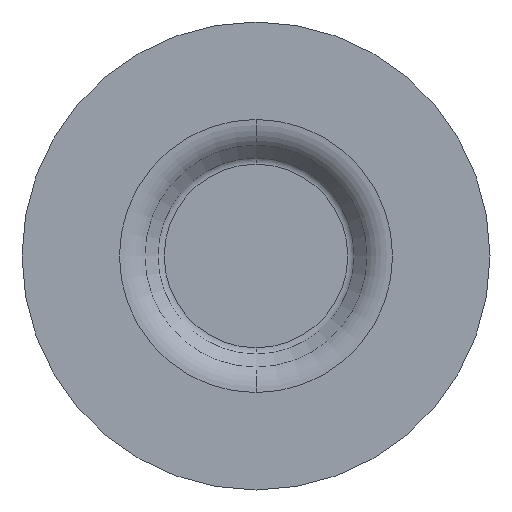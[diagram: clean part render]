
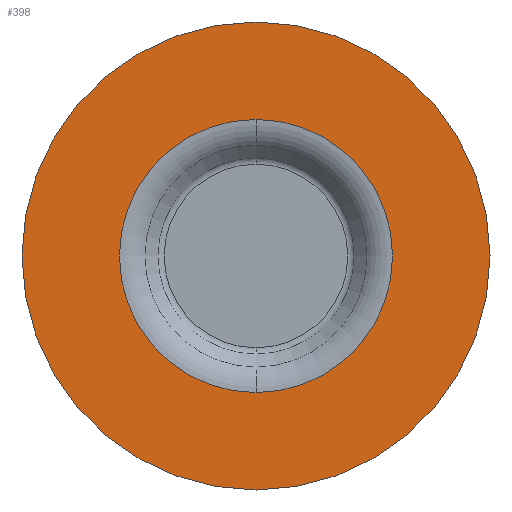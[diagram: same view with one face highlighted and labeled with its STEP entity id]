
A CAD part, front view. The second image highlights one B-rep face of the part: STEP entity #398.
In plain terms, the highlighted planar face has unit normal (0, -1, 0).
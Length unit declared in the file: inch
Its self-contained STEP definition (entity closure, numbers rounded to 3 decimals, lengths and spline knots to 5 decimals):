
#11 = CARTESIAN_POINT ( 'NONE',  ( 0.36485, -0.106, 0. ) ) ;
#19 = CARTESIAN_POINT ( 'NONE',  ( 0., -0.106, -0.36485 ) ) ;
#44 = FACE_BOUND ( 'NONE', #387, .T. ) ;
#47 = EDGE_CURVE ( 'NONE', #349, #391, #128, .T. ) ;
#53 = AXIS2_PLACEMENT_3D ( 'NONE', #87, #395, #474 ) ;
#54 = CARTESIAN_POINT ( 'NONE',  ( 0., -0.106, 0.36485 ) ) ;
#79 = ORIENTED_EDGE ( 'NONE', *, *, #386, .F. ) ;
#87 = CARTESIAN_POINT ( 'NONE',  ( 0., -0.106, 0. ) ) ;
#93 = DIRECTION ( 'NONE',  ( 0., 0., 1. ) ) ;
#97 = ORIENTED_EDGE ( 'NONE', *, *, #47, .T. ) ;
#114 = CIRCLE ( 'NONE', #201, 0.36485 ) ;
#120 = CARTESIAN_POINT ( 'NONE',  ( 0., -0.106, 0. ) ) ;
#128 = CIRCLE ( 'NONE', #175, 0.36485 ) ;
#175 = AXIS2_PLACEMENT_3D ( 'NONE', #328, #254, #408 ) ;
#195 = DIRECTION ( 'NONE',  ( 0., 1., 0. ) ) ;
#200 = VERTEX_POINT ( 'NONE', #415 ) ;
#201 = AXIS2_PLACEMENT_3D ( 'NONE', #375, #438, #379 ) ;
#231 = FACE_OUTER_BOUND ( 'NONE', #248, .T. ) ;
#248 = EDGE_LOOP ( 'NONE', ( #461, #79 ) ) ;
#254 = DIRECTION ( 'NONE',  ( 0., 1., 0. ) ) ;
#268 = CIRCLE ( 'NONE', #373, 0.625 ) ;
#276 = DIRECTION ( 'NONE',  ( 0., 1., 0. ) ) ;
#279 = DIRECTION ( 'NONE',  ( 0., 0., 1. ) ) ;
#286 = CIRCLE ( 'NONE', #53, 0.625 ) ;
#308 = AXIS2_PLACEMENT_3D ( 'NONE', #11, #195, #279 ) ;
#328 = CARTESIAN_POINT ( 'NONE',  ( 0., -0.106, 0. ) ) ;
#349 = VERTEX_POINT ( 'NONE', #19 ) ;
#350 = PLANE ( 'NONE',  #308 ) ;
#356 = CARTESIAN_POINT ( 'NONE',  ( 0., -0.106, 0.625 ) ) ;
#367 = EDGE_CURVE ( 'NONE', #429, #200, #268, .T. ) ;
#373 = AXIS2_PLACEMENT_3D ( 'NONE', #120, #276, #93 ) ;
#375 = CARTESIAN_POINT ( 'NONE',  ( 0., -0.106, 0. ) ) ;
#379 = DIRECTION ( 'NONE',  ( 0., 0., 1. ) ) ;
#386 = EDGE_CURVE ( 'NONE', #200, #429, #286, .T. ) ;
#387 = EDGE_LOOP ( 'NONE', ( #470, #97 ) ) ;
#391 = VERTEX_POINT ( 'NONE', #54 ) ;
#395 = DIRECTION ( 'NONE',  ( 0., 1., 0. ) ) ;
#398 = ADVANCED_FACE ( 'NONE', ( #231, #44 ), #350, .F. ) ;
#408 = DIRECTION ( 'NONE',  ( 0., 0., 1. ) ) ;
#415 = CARTESIAN_POINT ( 'NONE',  ( 0., -0.106, -0.625 ) ) ;
#429 = VERTEX_POINT ( 'NONE', #356 ) ;
#438 = DIRECTION ( 'NONE',  ( 0., 1., 0. ) ) ;
#461 = ORIENTED_EDGE ( 'NONE', *, *, #367, .F. ) ;
#470 = ORIENTED_EDGE ( 'NONE', *, *, #488, .T. ) ;
#474 = DIRECTION ( 'NONE',  ( 0., 0., 1. ) ) ;
#488 = EDGE_CURVE ( 'NONE', #391, #349, #114, .T. ) ;
